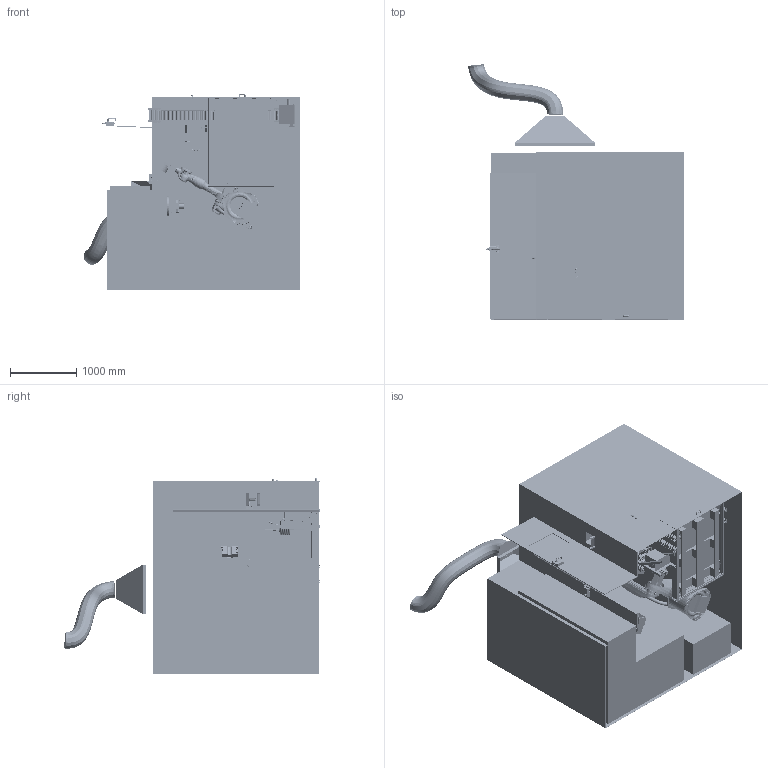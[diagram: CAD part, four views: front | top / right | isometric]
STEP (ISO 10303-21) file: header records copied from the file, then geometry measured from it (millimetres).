
FILE_DESCRIPTION((''),'2;1');
FILE_NAME('BUNKA_18_5_V2_ASM','2018-05-18T',('Filip'),(''),'CREO PARAMETRIC BY PTC INC, 2016260','CREO PARAMETRIC BY PTC INC, 2016260','');
FILE_SCHEMA(('AUTOMOTIVE_DESIGN { 1 0 10303 214 1 1 1 1 }'));
Length unit declared in the file: inch
Products named in the file (201): PPC_250_R6_2; PRT0002_2; PRT1001_AF0_1; PRT1001_AF1_1; PRT1001_AF2_1; PRT1001_AF3_1; PRT1002_AF0_1; PRT1002_AF1_1; PRT1003_1; PRT1101_2; PRT1102_2; PRT1103_2; PRT1104_2; PRT1105_2; PRT1106_2; RS_300_032_0125___0__Z_54__1; RS_300_032_0125___0__K_54__1; RS_300_032_012_AF0_ASM_3_ASM; 103030_3_3; PRT1107_2; 103030_2_2; 103030_4_2; PRT1108_2; KDF_14032_54__2; RS_300_032_012_AF1_ASM_3_ASM; PRT0001_2_1; VODICITYC_54__1; 700620_2_54__1; PRITLACOVACIVALECEK_54__1; DRZAKVALECKU_54__AF2_1; DRZAKVALECKU_54__AF3_1; ZARAZKA2_54__ASM_1_ASM; PRT1120_ASM_3_ASM; PRT1100_ASM_10_ASM; PRT1202_1; PRT1200_ASM_2_ASM; PRT1004_1; RN_100_016_0100__0__Z_54__1; RN_100_016_0100__0__K_54__1; RN_100_016_0100__0__54__ASM_1_ASM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
Assembly tree (354 placements, depth 7):
  BUNKA_18_5_V2_ASM
    ROB_BUNKA_SKLARSKE_FORMY_ASM_9_ASM
      PPC_250_R6_2
      PRT0002_2
      PRT1000_ASM_3_ASM
        PRT1001_AF0_1
        PRT1001_AF1_1
        PRT1001_AF2_1
        PRT1001_AF3_1
        PRT1002_AF0_1
        PRT1002_AF1_1
        PRT1003_1  x2
        PRT1100_ASM_10_ASM
          PRT1101_2  x22
          PRT1102_2  x2
          PRT1103_2  x2
          PRT1104_2  x2
          PRT1105_2
          PRT1106_2
          RS_300_032_012_AF0_ASM_3_ASM
            RS_300_032_0125___0__Z_54__1
            RS_300_032_0125___0__K_54__1
          103030_3_3  x2
          PRT1107_2
          103030_2_2
          103030_4_2
          PRT1108_2
          KDF_14032_54__2
          RS_300_032_012_AF1_ASM_3_ASM
            RS_300_032_0125___0__Z_54__1
            RS_300_032_0125___0__K_54__1
          PRT0001_2_1  x2
          PRT1120_ASM_3_ASM
            VODICITYC_54__1
            700620_2_54__1  x2
            ZARAZKA2_54__ASM_1_ASM
              PRITLACOVACIVALECEK_54__1  x2
              DRZAKVALECKU_54__AF2_1
              DRZAKVALECKU_54__AF3_1
        PRT1200_ASM_2_ASM
          PRT1101_2  x77
          PRT1202_1  x2
        PRT1004_1
        PRT0001_2_1
        PRT1300_ASM_1_ASM
          RN_100_016_0100__0__54__ASM_1_ASM
            RN_100_016_0100__0__Z_54__1
            RN_100_016_0100__0__K_54__1
          RPF_29016_54__1
          PRT1301_1  x2
          PRT1302_1
        PRT1005_1
        KF_17032_54__1
        PRT1006_1  x2
      KUKA_KR20_R1810_ASM_1_ASM
        KR16-3_KR20-3_1_2_3_ASM_1_ASM
          KR16-3_KR20-3_1_2_3_1_1
          KR16-3_KR20-3_1_2_3_2_1
          R3_1_1
          KR16-3_KR20-3_1_2_3_3_1
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Bounding box: 3253.57 x 3838.67 x 2955.44 mm (x, y, z)
Volume: 3106520971.3 mm3; surface area: 124027205.3 mm2
Topology: 325 solids, 481 shells, 17529 faces, 47475 edges, 31416 vertices
Faces by surface type: plane 9757, cylinder 5390, cone 1013, torus 720, bspline 348, extrusion 204, sphere 86, revolution 11
Entity records: 647396 total; most frequent: CARTESIAN_POINT 160650, ORIENTED_EDGE 75594, DIRECTION 74052, EDGE_CURVE 37959, AXIS2_PLACEMENT_3D 25379, VERTEX_POINT 25181, VECTOR 23283, LINE 23079
